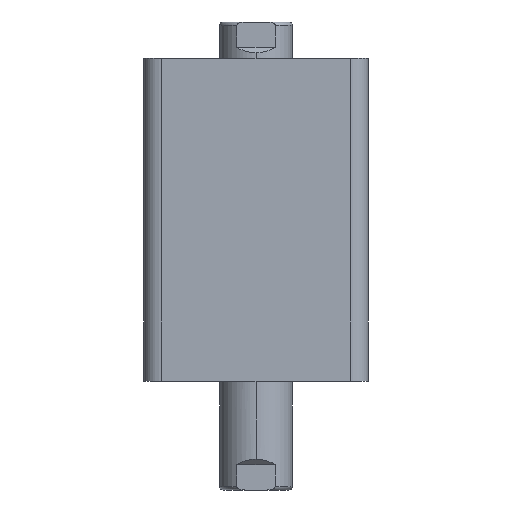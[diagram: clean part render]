
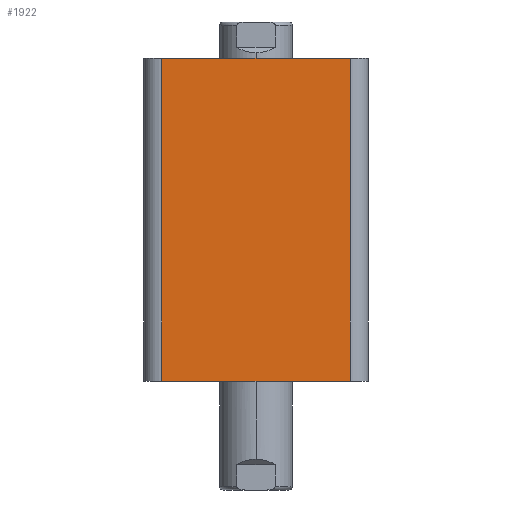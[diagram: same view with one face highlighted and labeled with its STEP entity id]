
A CAD part, left-side view. The second image highlights one B-rep face of the part: STEP entity #1922.
In plain terms, the highlighted planar face has unit normal (-1, 0, 0).
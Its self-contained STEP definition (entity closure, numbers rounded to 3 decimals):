
#282 = EDGE_CURVE ( 'NONE', #577, #574, #1651, .T. ) ;
#283 = EDGE_CURVE ( 'NONE', #574, #590, #1647, .T. ) ;
#284 = EDGE_CURVE ( 'NONE', #591, #590, #1655, .T. ) ;
#285 = EDGE_CURVE ( 'NONE', #591, #577, #1657, .T. ) ;
#523 = ORIENTED_EDGE ( 'NONE', *, *, #285, .T. ) ;
#524 = ORIENTED_EDGE ( 'NONE', *, *, #284, .F. ) ;
#525 = ORIENTED_EDGE ( 'NONE', *, *, #283, .T. ) ;
#526 = ORIENTED_EDGE ( 'NONE', *, *, #282, .T. ) ;
#574 = VERTEX_POINT ( 'NONE', #1283 ) ;
#577 = VERTEX_POINT ( 'NONE', #1286 ) ;
#590 = VERTEX_POINT ( 'NONE', #1299 ) ;
#591 = VERTEX_POINT ( 'NONE', #1300 ) ;
#781 = FACE_OUTER_BOUND ( 'NONE', #2977, .T. ) ;
#1283 = CARTESIAN_POINT ( 'NONE',  ( -31., -26., 0. ) ) ;
#1286 = CARTESIAN_POINT ( 'NONE',  ( -31., 26., 0. ) ) ;
#1299 = CARTESIAN_POINT ( 'NONE',  ( -31., -26., 89. ) ) ;
#1300 = CARTESIAN_POINT ( 'NONE',  ( -31., 26., 89. ) ) ;
#1647 = LINE ( 'NONE', #2286, #1656 ) ;
#1651 = LINE ( 'NONE', #2297, #1654 ) ;
#1654 = VECTOR ( 'NONE', #2298, 1000. ) ;
#1655 = LINE ( 'NONE', #2300, #1658 ) ;
#1656 = VECTOR ( 'NONE', #2299, 1000. ) ;
#1657 = LINE ( 'NONE', #2302, #1660 ) ;
#1658 = VECTOR ( 'NONE', #2301, 1000. ) ;
#1660 = VECTOR ( 'NONE', #2303, 1000. ) ;
#1922 = ADVANCED_FACE ( 'NONE', ( #781 ), #2813, .F. ) ;
#2105 = AXIS2_PLACEMENT_3D ( 'NONE', #2805, #2815, #2816 ) ;
#2286 = CARTESIAN_POINT ( 'NONE',  ( -31., -26., 89. ) ) ;
#2297 = CARTESIAN_POINT ( 'NONE',  ( -31., 31., 0. ) ) ;
#2298 = DIRECTION ( 'NONE',  ( 0., -1., 0. ) ) ;
#2299 = DIRECTION ( 'NONE',  ( 0., 0., 1. ) ) ;
#2300 = CARTESIAN_POINT ( 'NONE',  ( -31., 31., 89. ) ) ;
#2301 = DIRECTION ( 'NONE',  ( 0., -1., 0. ) ) ;
#2302 = CARTESIAN_POINT ( 'NONE',  ( -31., 26., 89. ) ) ;
#2303 = DIRECTION ( 'NONE',  ( 0., 0., -1. ) ) ;
#2805 = CARTESIAN_POINT ( 'NONE',  ( -31., 31., 89. ) ) ;
#2813 = PLANE ( 'NONE',  #2105 ) ;
#2815 = DIRECTION ( 'NONE',  ( 1., 0., 0. ) ) ;
#2816 = DIRECTION ( 'NONE',  ( 0., 1., 0. ) ) ;
#2977 = EDGE_LOOP ( 'NONE', ( #526, #525, #524, #523 ) ) ;
